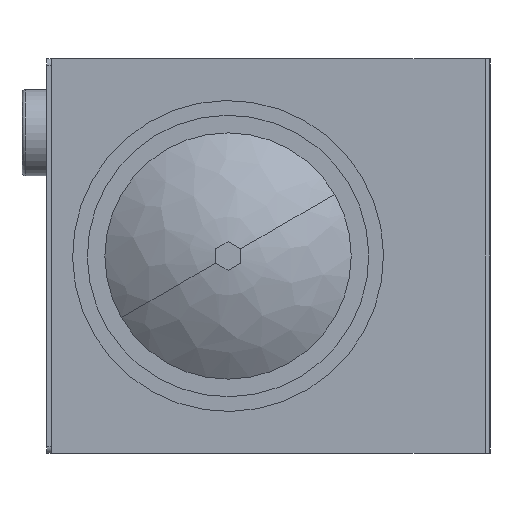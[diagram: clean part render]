
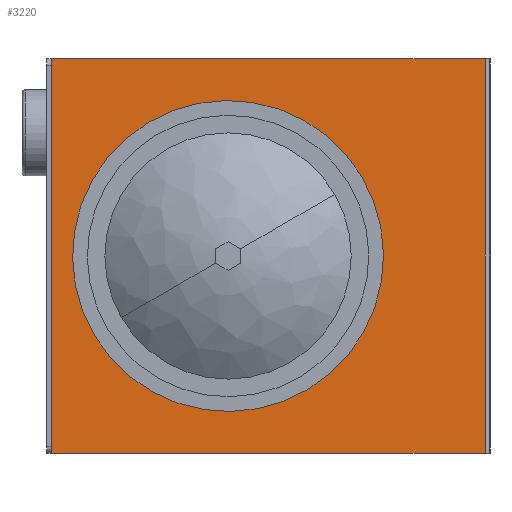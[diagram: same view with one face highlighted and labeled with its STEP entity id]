
A CAD part, left-side view. The second image highlights one B-rep face of the part: STEP entity #3220.
In plain terms, the highlighted planar face has unit normal (-1, 0, 0) as drawn and (1, 0, 0) by its records, which use the part's own axes.
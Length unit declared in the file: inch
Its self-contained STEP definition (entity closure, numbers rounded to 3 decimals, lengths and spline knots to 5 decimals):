
#341 = ORIENTED_EDGE ( 'NONE', *, *, #1613, .T. ) ;
#588 = CARTESIAN_POINT ( 'NONE',  ( 0., -8.70925, 8. ) ) ;
#1004 = CARTESIAN_POINT ( 'NONE',  ( 0., -8.90625, 8. ) ) ;
#1183 = CARTESIAN_POINT ( 'NONE',  ( 0., 0., 0. ) ) ;
#1241 = DIRECTION ( 'NONE',  ( -1., 0., 0. ) ) ;
#1265 = ORIENTED_EDGE ( 'NONE', *, *, #8978, .T. ) ;
#1322 = CARTESIAN_POINT ( 'NONE',  ( 0., 8.90625, 8. ) ) ;
#1411 = VERTEX_POINT ( 'NONE', #8744 ) ;
#1613 = EDGE_CURVE ( 'NONE', #5117, #3526, #4471, .T. ) ;
#1745 = DIRECTION ( 'NONE',  ( 0., 0., -1. ) ) ;
#1905 = DIRECTION ( 'NONE',  ( 0., 0., 1. ) ) ;
#2343 = DIRECTION ( 'NONE',  ( 0., 1., 0. ) ) ;
#2489 = AXIS2_PLACEMENT_3D ( 'NONE', #5213, #3896, #1745 ) ;
#2599 = EDGE_CURVE ( 'NONE', #8623, #5369, #5316, .T. ) ;
#2711 = DIRECTION ( 'NONE',  ( 0., 0., -1. ) ) ;
#2810 = EDGE_CURVE ( 'NONE', #3526, #1411, #6637, .T. ) ;
#2933 = CARTESIAN_POINT ( 'NONE',  ( 0., 1.72825, -5. ) ) ;
#2958 = VECTOR ( 'NONE', #2711, 39.37008 ) ;
#2965 = EDGE_CURVE ( 'NONE', #5369, #8623, #3148, .T. ) ;
#2988 = VECTOR ( 'NONE', #4838, 39.37008 ) ;
#3117 = EDGE_LOOP ( 'NONE', ( #6580, #8199 ) ) ;
#3148 = CIRCLE ( 'NONE', #2489, 5. ) ;
#3220 = ADVANCED_FACE ( 'NONE', ( #7504, #6402 ), #3991, .F. ) ;
#3332 = EDGE_LOOP ( 'NONE', ( #341, #8561, #4730, #1265 ) ) ;
#3391 = DIRECTION ( 'NONE',  ( 0., 0., -1. ) ) ;
#3526 = VERTEX_POINT ( 'NONE', #4253 ) ;
#3822 = CARTESIAN_POINT ( 'NONE',  ( 0., -8.70925, 8. ) ) ;
#3896 = DIRECTION ( 'NONE',  ( 1., 0., 0. ) ) ;
#3905 = AXIS2_PLACEMENT_3D ( 'NONE', #1183, #1241, #1905 ) ;
#3991 = PLANE ( 'NONE',  #3905 ) ;
#4253 = CARTESIAN_POINT ( 'NONE',  ( 0., -8.70925, -8. ) ) ;
#4399 = DIRECTION ( 'NONE',  ( 0., -1., 0. ) ) ;
#4456 = VECTOR ( 'NONE', #2343, 39.37008 ) ;
#4471 = LINE ( 'NONE', #588, #2958 ) ;
#4730 = ORIENTED_EDGE ( 'NONE', *, *, #5341, .T. ) ;
#4838 = DIRECTION ( 'NONE',  ( 0., 0., 1. ) ) ;
#4976 = CARTESIAN_POINT ( 'NONE',  ( 0., 1.72825, 5. ) ) ;
#5117 = VERTEX_POINT ( 'NONE', #3822 ) ;
#5213 = CARTESIAN_POINT ( 'NONE',  ( 0., 1.72825, 0. ) ) ;
#5316 = CIRCLE ( 'NONE', #7572, 5. ) ;
#5341 = EDGE_CURVE ( 'NONE', #1411, #7252, #8641, .T. ) ;
#5369 = VERTEX_POINT ( 'NONE', #2933 ) ;
#6402 = FACE_OUTER_BOUND ( 'NONE', #3332, .T. ) ;
#6439 = CARTESIAN_POINT ( 'NONE',  ( 0., -8.90625, -8. ) ) ;
#6580 = ORIENTED_EDGE ( 'NONE', *, *, #2965, .F. ) ;
#6637 = LINE ( 'NONE', #6439, #4456 ) ;
#6883 = DIRECTION ( 'NONE',  ( 1., 0., 0. ) ) ;
#6988 = LINE ( 'NONE', #1004, #7198 ) ;
#7198 = VECTOR ( 'NONE', #4399, 39.37008 ) ;
#7252 = VERTEX_POINT ( 'NONE', #8479 ) ;
#7504 = FACE_BOUND ( 'NONE', #3117, .T. ) ;
#7559 = CARTESIAN_POINT ( 'NONE',  ( 0., 1.72825, 0. ) ) ;
#7572 = AXIS2_PLACEMENT_3D ( 'NONE', #7559, #6883, #3391 ) ;
#8199 = ORIENTED_EDGE ( 'NONE', *, *, #2599, .F. ) ;
#8479 = CARTESIAN_POINT ( 'NONE',  ( 0., 8.90625, 8. ) ) ;
#8561 = ORIENTED_EDGE ( 'NONE', *, *, #2810, .T. ) ;
#8623 = VERTEX_POINT ( 'NONE', #4976 ) ;
#8641 = LINE ( 'NONE', #1322, #2988 ) ;
#8744 = CARTESIAN_POINT ( 'NONE',  ( 0., 8.90625, -8. ) ) ;
#8978 = EDGE_CURVE ( 'NONE', #7252, #5117, #6988, .T. ) ;
